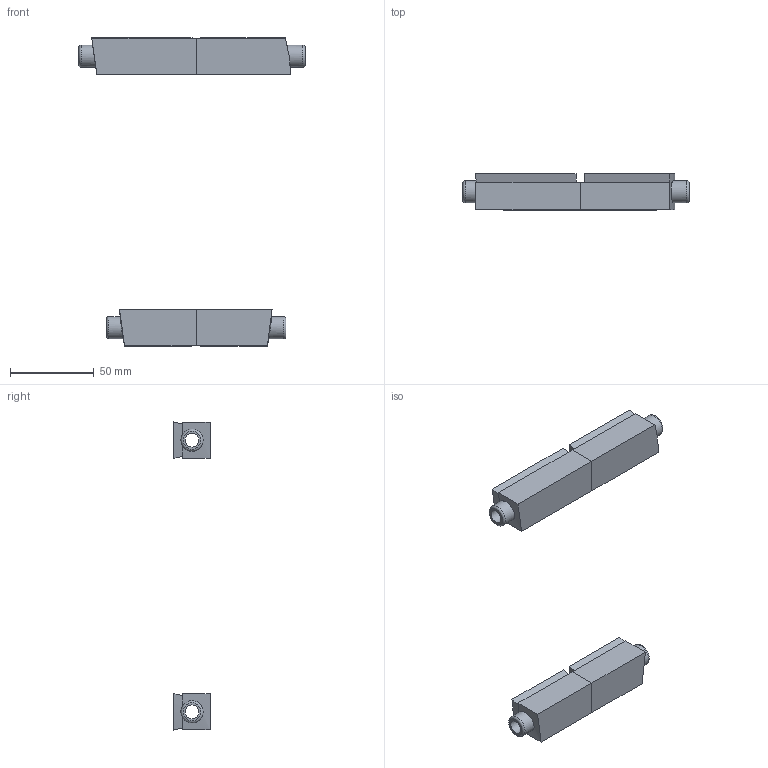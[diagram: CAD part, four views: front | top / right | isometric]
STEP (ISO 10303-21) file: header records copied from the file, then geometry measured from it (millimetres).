
FILE_DESCRIPTION(/* description */ (''),/* implementation_level */ '2;1');
FILE_NAME(/* name */ 'C:\Users\garre\3D Objects\croc skate axle holders.stp',/* time_stamp */ '2021-09-03T20:51:29-04:00',/* author */ ('garre'),/* organization */ (''),/* preprocessor_version */ 'ST-DEVELOPER v18.1',/* originating_system */ 'Autodesk Inventor 2022',/* authorisation */ '');
FILE_SCHEMA (('AUTOMOTIVE_DESIGN { 1 0 10303 214 3 1 1 }'));
Length unit declared in the file: inch
Products named in the file (1): croc skate axle holders
Bounding box: 134.62 x 21.59 x 183.48 mm (x, y, z)
Volume: 85400.4 mm3; surface area: 28969.9 mm2
Topology: 4 solids, 4 shells, 60 faces, 148 edges, 96 vertices
Faces by surface type: plane 40, cylinder 8, bspline 8, torus 4
Full cylindrical faces by diameter (mm): 8.128 x4, 13.208 x4
Entity records: 2340 total; most frequent: CARTESIAN_POINT 901, ORIENTED_EDGE 296, DIRECTION 248, EDGE_CURVE 148, VERTEX_POINT 96, AXIS2_PLACEMENT_3D 84, LINE 80, VECTOR 80
